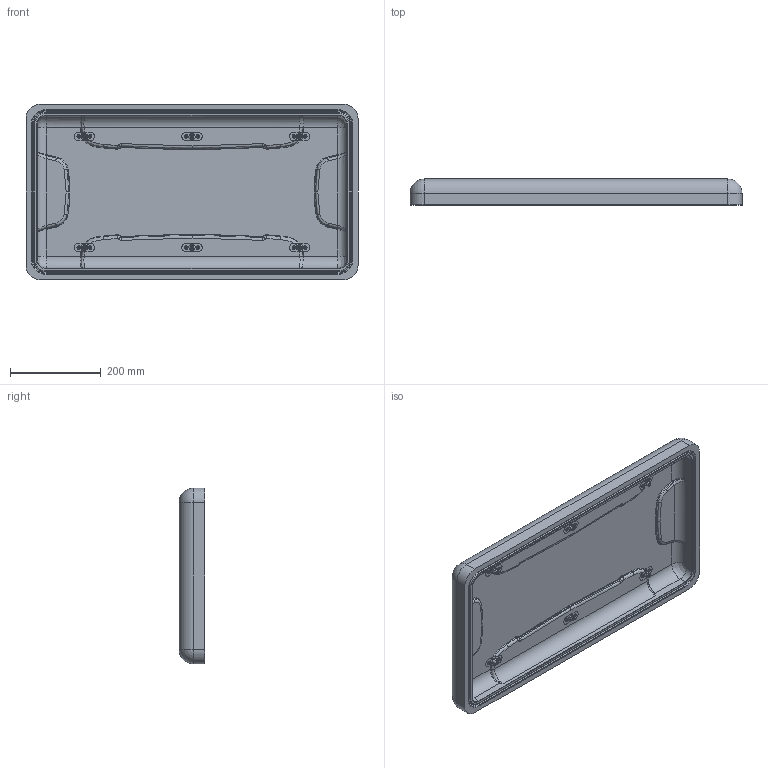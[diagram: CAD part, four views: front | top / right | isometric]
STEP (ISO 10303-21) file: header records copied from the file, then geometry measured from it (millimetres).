
FILE_DESCRIPTION (( 'STEP AP203' ), '1' );
FILE_NAME ('NANUK_980_Top Shell_INNER SURFS_Steps.STEP', '2023-01-24T20:30:46', ( 'Sylvain' ), ( '' ), 'SwSTEP 2.0', 'SolidWorks 2022', '' );
FILE_SCHEMA (( 'CONFIG_CONTROL_DESIGN' ));
Length unit declared in the file: inch
Products named in the file (1): NANUK_980_Top Shell_INNER SURFS_Steps
Bounding box: 731.74 x 57.15 x 387.25 mm (x, y, z)
Volume: 6900218.6 mm3; surface area: 757633.3 mm2
Topology: 1 solids, 1 shells, 824 faces, 2066 edges, 1304 vertices
Faces by surface type: bspline 362, plane 310, torus 60, cylinder 48, cone 40, sphere 4
Entity records: 47977 total; most frequent: CARTESIAN_POINT 30692, ORIENTED_EDGE 4092, DIRECTION 2648, EDGE_CURVE 2046, VERTEX_POINT 1304, LINE 938, VECTOR 938, EDGE_LOOP 904
